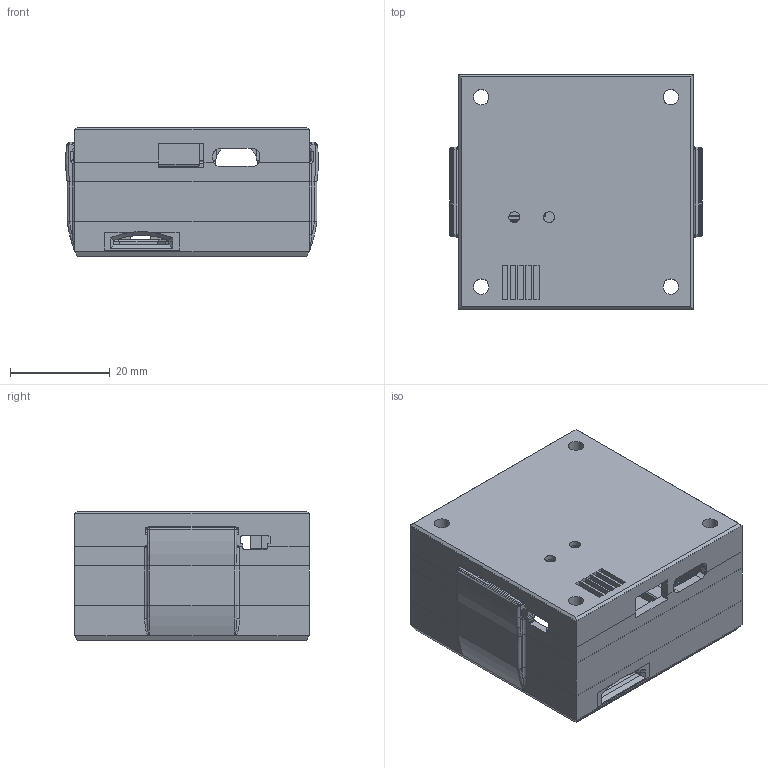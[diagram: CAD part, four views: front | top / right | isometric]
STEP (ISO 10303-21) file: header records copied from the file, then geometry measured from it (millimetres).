
FILE_DESCRIPTION(('FreeCAD Model'),'2;1');
FILE_NAME('Open CASCADE Shape Model','2026-02-15T18:12:41',('Author'),( ''),'Open CASCADE STEP processor 7.8','FreeCAD','Unknown');
FILE_SCHEMA(('AUTOMOTIVE_DESIGN { 1 0 10303 214 1 1 1 1 }'));
Length unit declared in the file: millimetre
Products named in the file (3): Housing_2_v10_cc1_8_0mm; RTK Postcard Side; Portability Shield Side
Assembly tree (2 placements, depth 2):
  Housing_2_v10_cc1_8_0mm
    RTK Postcard Side
    Portability Shield Side
Bounding box: 50.79 x 47.18 x 26 mm (x, y, z)
Volume: 15916.4 mm3; surface area: 18160.7 mm2
Topology: 2 solids, 2 shells, 688 faces, 1798 edges, 1103 vertices
Faces by surface type: plane 457, cylinder 172, bspline 21, sphere 16, torus 13, extrusion 6, cone 3
Full cylindrical faces by diameter (mm): 2.2 x2, 3.1 x7
Entity records: 22363 total; most frequent: CARTESIAN_POINT 5446, ORIENTED_EDGE 3594, DIRECTION 3362, EDGE_CURVE 1797, VECTOR 1392, LINE 1386, VERTEX_POINT 1103, AXIS2_PLACEMENT_3D 985
